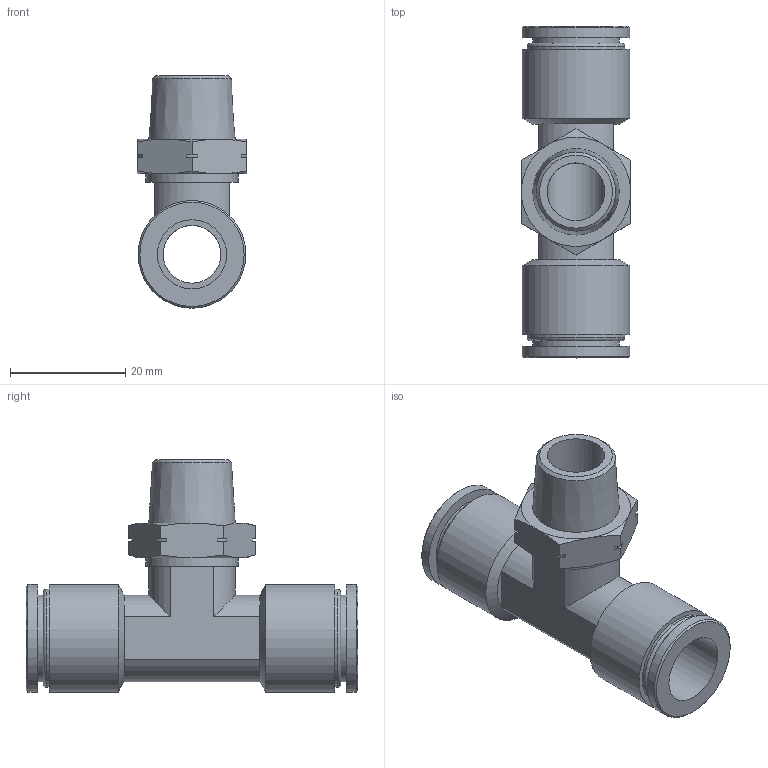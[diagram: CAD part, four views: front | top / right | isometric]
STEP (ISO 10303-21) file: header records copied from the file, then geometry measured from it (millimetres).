
FILE_DESCRIPTION(/* description */ (''),/* implementation_level */ '2;1');
FILE_NAME(/* name */ 'LXH31 0012 N3.stp',/* time_stamp */ '2025-09-16T13:10:42+02:00',/* author */ ('freju'),/* organization */ (''),/* preprocessor_version */ 'ST-DEVELOPER v20.1',/* originating_system */ 'Autodesk Inventor 2026',/* authorisation */ '');
FILE_SCHEMA (('AUTOMOTIVE_DESIGN { 1 0 10303 214 3 1 1 }'));
Length unit declared in the file: millimetre
Products named in the file (1): LXH31 0012 N3
Bounding box: 19 x 57.6 x 40.35 mm (x, y, z)
Volume: 9779.1 mm3; surface area: 8183.3 mm2
Topology: 1 solids, 1 shells, 82 faces, 187 edges, 117 vertices
Faces by surface type: plane 38, cylinder 24, cone 18, torus 2
Full cylindrical faces by diameter (mm): 10 x2, 12 x2, 15 x2, 16 x1, 17 x2, 18.7 x4
Entity records: 2333 total; most frequent: CARTESIAN_POINT 435, DIRECTION 408, ORIENTED_EDGE 374, EDGE_CURVE 187, AXIS2_PLACEMENT_3D 162, VERTEX_POINT 117, EDGE_LOOP 96, LINE 84
